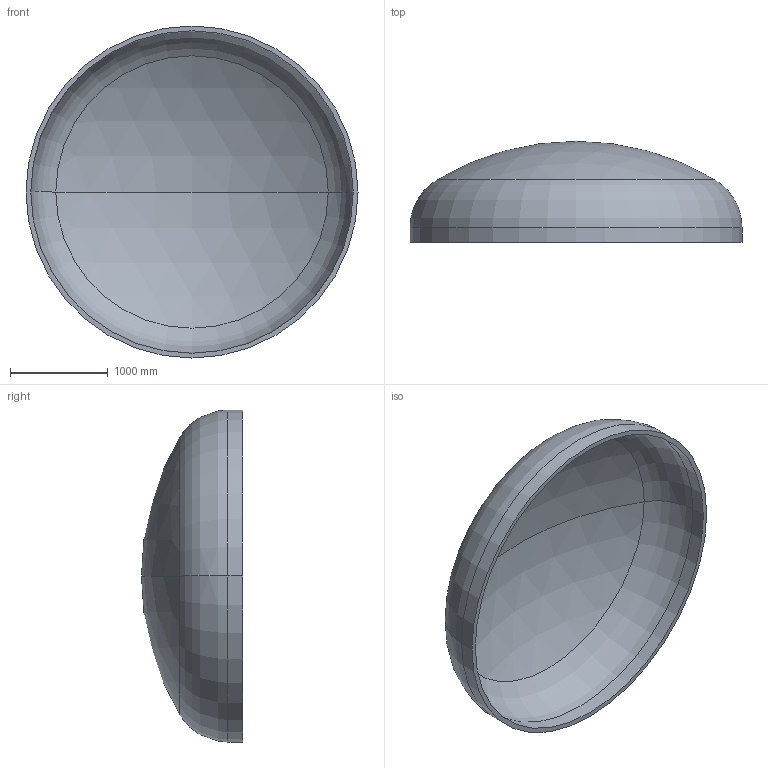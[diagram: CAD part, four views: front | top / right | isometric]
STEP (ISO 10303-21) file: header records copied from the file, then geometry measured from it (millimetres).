
FILE_DESCRIPTION (( 'STEP AP203' ), '1' );
FILE_NAME ('DIN 28013 Korbbogenform_-_Boden DIN 28013 - 3400 x 150 - I - s=49.step', '2016-07-01T19:35:00', ( '' ), ( '' ), 'SwSTEP 2.0', 'SolidWorks 2013', '' );
FILE_SCHEMA (( 'CONFIG_CONTROL_DESIGN' ));
Length unit declared in the file: millimetre
Products named in the file (1): DIN 28013 Korbbogenform_-_Boden DIN 28013 - 3400 x 150 - I - s=49
Bounding box: 3400 x 1034.82 x 3400 mm (x, y, z)
Volume: 682230310.5 mm3; surface area: 28367000.5 mm2
Topology: 1 solids, 1 shells, 13 faces, 24 edges, 14 vertices
Faces by surface type: torus 4, cylinder 4, sphere 4, plane 1
Entity records: 407 total; most frequent: DIRECTION 72, CARTESIAN_POINT 52, ORIENTED_EDGE 48, AXIS2_PLACEMENT_3D 34, EDGE_CURVE 24, CIRCLE 20, EDGE_LOOP 14, VERTEX_POINT 14
